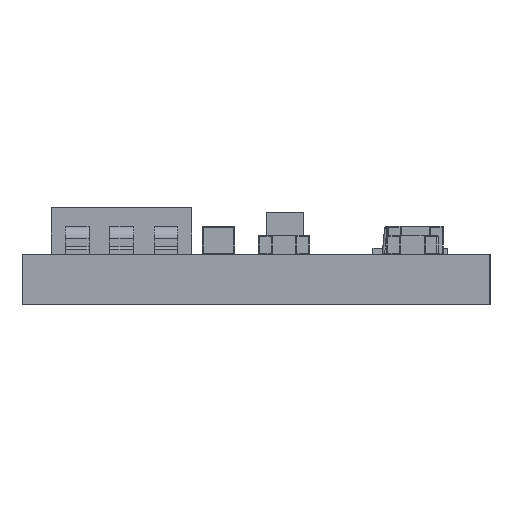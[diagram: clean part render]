
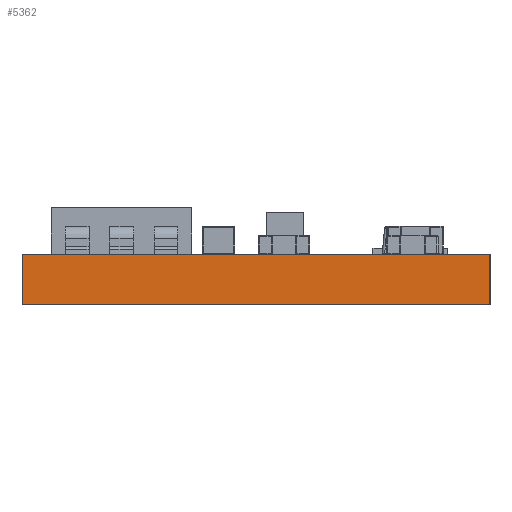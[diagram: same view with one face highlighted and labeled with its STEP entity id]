
A CAD part, left-side view. The second image highlights one B-rep face of the part: STEP entity #5362.
In plain terms, the highlighted planar face has unit normal (-1, 0, 0).
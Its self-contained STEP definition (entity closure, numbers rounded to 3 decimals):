
#413=PLANE('',#5830);
#620=FACE_OUTER_BOUND('',#940,.T.);
#940=EDGE_LOOP('',(#3872,#3873,#3874,#3875));
#1322=LINE('',#8099,#1852);
#1330=LINE('',#8114,#1860);
#1331=LINE('',#8116,#1861);
#1332=LINE('',#8117,#1862);
#1852=VECTOR('',#6492,10.);
#1860=VECTOR('',#6504,10.);
#1861=VECTOR('',#6507,10.);
#1862=VECTOR('',#6508,10.);
#2613=VERTEX_POINT('',#8096);
#2614=VERTEX_POINT('',#8098);
#2618=VERTEX_POINT('',#8110);
#2619=VERTEX_POINT('',#8112);
#3096=EDGE_CURVE('',#2613,#2614,#1322,.T.);
#3104=EDGE_CURVE('',#2618,#2619,#1330,.T.);
#3105=EDGE_CURVE('',#2613,#2618,#1331,.T.);
#3106=EDGE_CURVE('',#2614,#2619,#1332,.T.);
#3872=ORIENTED_EDGE('',*,*,#3105,.T.);
#3873=ORIENTED_EDGE('',*,*,#3104,.T.);
#3874=ORIENTED_EDGE('',*,*,#3106,.F.);
#3875=ORIENTED_EDGE('',*,*,#3096,.F.);
#5362=ADVANCED_FACE('',(#620),#413,.T.);
#5830=AXIS2_PLACEMENT_3D('',#8115,#6505,#6506);
#6492=DIRECTION('',(0.,0.,1.));
#6504=DIRECTION('',(0.,0.,1.));
#6505=DIRECTION('center_axis',(-1.,0.,0.));
#6506=DIRECTION('ref_axis',(0.,-1.,0.));
#6507=DIRECTION('',(0.,-1.,0.));
#6508=DIRECTION('',(0.,-1.,0.));
#8096=CARTESIAN_POINT('',(0.,10.,0.));
#8098=CARTESIAN_POINT('',(0.,10.,1.07));
#8099=CARTESIAN_POINT('',(0.,10.,0.));
#8110=CARTESIAN_POINT('',(0.,0.,0.));
#8112=CARTESIAN_POINT('',(0.,0.,1.07));
#8114=CARTESIAN_POINT('',(0.,0.,0.));
#8115=CARTESIAN_POINT('Origin',(0.,10.,0.));
#8116=CARTESIAN_POINT('',(0.,10.,0.));
#8117=CARTESIAN_POINT('',(0.,10.,1.07));
